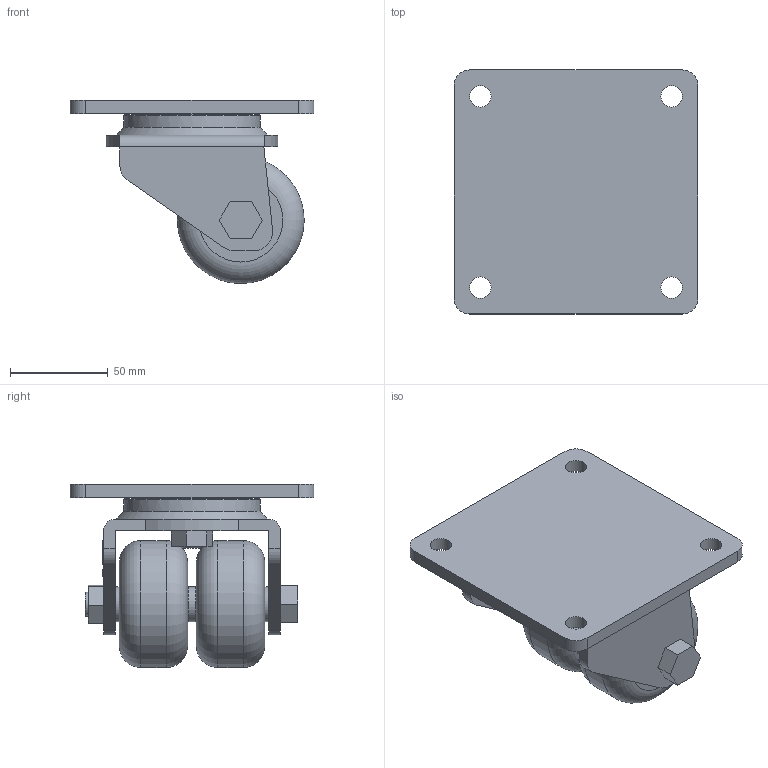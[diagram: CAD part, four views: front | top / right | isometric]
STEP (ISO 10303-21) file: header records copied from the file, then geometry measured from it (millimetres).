
FILE_DESCRIPTION(/* description */ (''),/* implementation_level */ '2;1');
FILE_NAME(/* name */ '90A07_2,5_R.stp',/* time_stamp */ '2022-08-29T13:24:33+08:00',/* author */ (''),/* organization */ (''),/* preprocessor_version */ 'ST-DEVELOPER v14',/* originating_system */ 'SIEMENS PLM Software NX 8.0',/* authorisation */ '');
FILE_SCHEMA (('AUTOMOTIVE_DESIGN { 1 0 10303 214 3 1 1 1 }'));
Length unit declared in the file: millimetre
Products named in the file (1): 90A07_2,5_R
Bounding box: 125 x 125 x 93.8 mm (x, y, z)
Volume: 436381.6 mm3; surface area: 95634.3 mm2
Topology: 1 solids, 5 shells, 314 faces, 802 edges, 535 vertices
Faces by surface type: plane 229, cylinder 65, torus 7, cone 6, revolution 5, bspline 2
Full cylindrical faces by diameter (mm): 11 x4, 12 x1, 12.2 x1, 12.5 x1, 15 x2, 17.142 x1, 18 x3, 20 x1, 22 x1, 24.608 x1, 28 x1, 40 x1, 60 x2, 62.5 x1, 65 x2, 70 x1
Entity records: 9957 total; most frequent: CARTESIAN_POINT 2890, ORIENTED_EDGE 1486, DIRECTION 1272, EDGE_CURVE 743, VERTEX_POINT 520, AXIS2_PLACEMENT_3D 459, EDGE_LOOP 413, LINE 349
